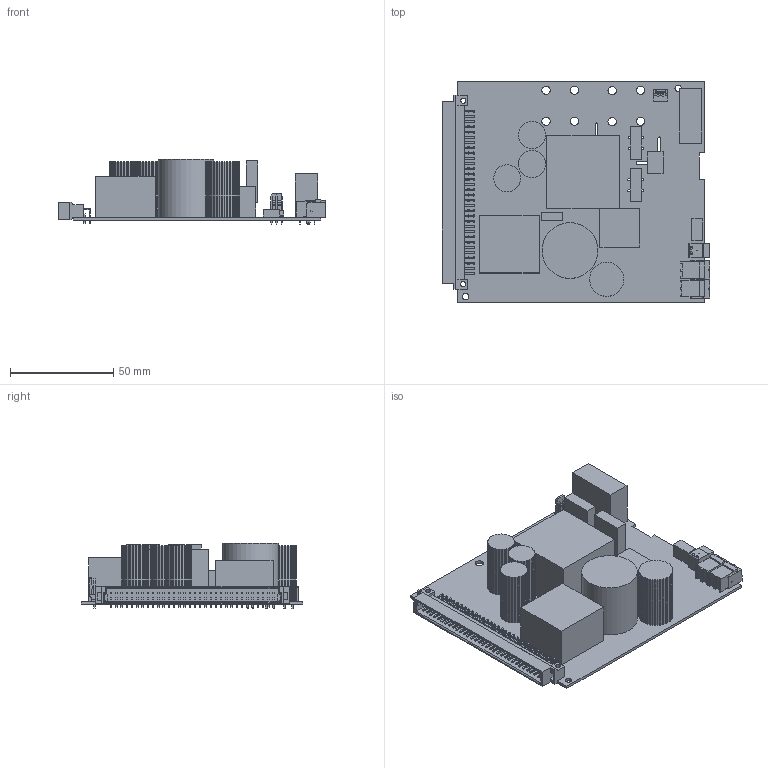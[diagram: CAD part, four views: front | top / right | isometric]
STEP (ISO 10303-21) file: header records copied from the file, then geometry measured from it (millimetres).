
FILE_DESCRIPTION(('Open CASCADE Model'),'2;1');
FILE_NAME('Open CASCADE Shape Model','2012-10-18T08:41:52',('Author'),( 'Open CASCADE'),'Open CASCADE STEP processor 6.2','Open CASCADE 6.2' ,'Unknown');
FILE_SCHEMA(('AUTOMOTIVE_DESIGN { 1 0 10303 214 1 1 1 1 }'));
Length unit declared in the file: millimetre
Products named in the file (53): PCB; Board; X09-1; lsf_smt3_81_2_90; X08-1; U1; 719031488; Extruded; L1; 796108912; Cylinder; C15; 1285747072; X17; 22-04-1031; Open CASCADE STEP translator 6.2 4.7.1.1; Open CASCADE STEP translator 6.2 4.7.1.2; X12; 29016; mc_0.5-2-g-2.5; X09; 28972; X08; X1; Erni_DIN41612_STV-B64-M-AB_90G; T3; 709284080; T2; 1285747456; C55; 1285746944; C44; 1285748736; C5; 1285747200; C31; 1285748608; C36; C40; V6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
Assembly tree (57 placements, depth 4):
  PCB
    Board
    X09-1
      lsf_smt3_81_2_90
    X08-1
      lsf_smt3_81_2_90
    U1
      719031488
        Extruded
    L1
      796108912
        Cylinder
    C15
      1285747072
        Extruded
    X17
      22-04-1031
        Open CASCADE STEP translator 6.2 4.7.1.1
        Open CASCADE STEP translator 6.2 4.7.1.2
    X12
      29016
        mc_0.5-2-g-2.5
    X09
      28972
    X08
      28972
    X1
      Erni_DIN41612_STV-B64-M-AB_90G
    T3
      709284080
        Extruded
    T2
      1285747456
        Extruded
    C55
      1285746944
        Extruded
    C44
      1285748736
        Extruded
    C5
      1285747200
        Extruded
    C31
      1285748608
        Extruded
    C36
      1285748608
        Extruded
    C40
      1285748608
        Extruded
    V6
      1285743744
        Extruded
    V32
      1285743744
        Extruded
    T1
      1285747328
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Bounding box: 129.6 x 107.5 x 31.5 mm (x, y, z)
Volume: 119845.5 mm3; surface area: 64431.5 mm2
Topology: 22 solids, 22 shells, 2259 faces, 5955 edges, 3945 vertices
Faces by surface type: plane 1975, cylinder 276, cone 4, sphere 4
Full cylindrical faces by diameter (mm): 0.457 x2, 0.914 x12, 1.016 x66, 1.194 x13, 1.2 x4, 1.25 x4, 1.321 x13, 1.397 x19, 1.6 x4, 1.803 x6, 2.794 x2, 3.099 x2, 4 x8, 27 x1
Entity records: 123717 total; most frequent: CARTESIAN_POINT 23952, DIRECTION 18001, LINE 13069, VECTOR 13069, ORIENTED_EDGE 9634, PCURVE 9634, DEFINITIONAL_REPRESENTATION 9634, EDGE_CURVE 4817
